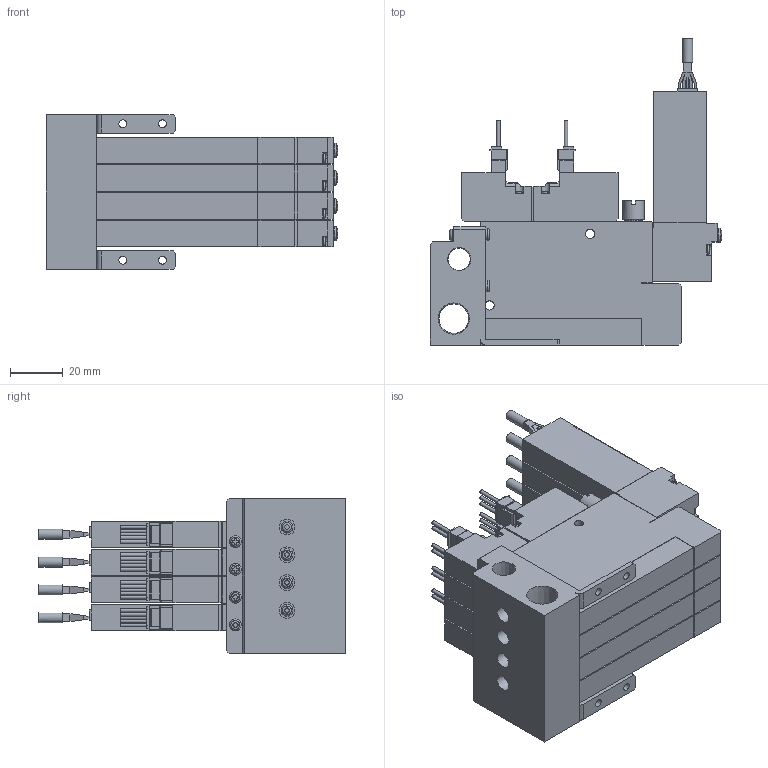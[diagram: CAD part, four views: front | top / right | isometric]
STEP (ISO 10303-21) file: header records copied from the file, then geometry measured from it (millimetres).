
FILE_DESCRIPTION(('STEP AP203'),'1');
FILE_NAME('V9C5WC404_3D.stp','2024-09-04T13:56:45',(' '),(' '),'Spatial InterOp 3D',' ',' ');
FILE_SCHEMA(('CONFIG_CONTROL_DESIGN'));
Length unit declared in the file: millimetre
Products named in the file (5): BSC1M※※V9C5WC404; Solenoid valve W; Pressure Sensor V9; Unit-C; BaseMC40R
Assembly tree (13 placements, depth 2):
  BSC1M※※V9C5WC404
    Solenoid valve W  x4
    Pressure Sensor V9  x4
    Unit-C  x4
    BaseMC40R
Bounding box: 110.35 x 115.8 x 58.5 mm (x, y, z)
Volume: 271629.4 mm3; surface area: 94288.6 mm2
Topology: 13 solids, 13 shells, 1763 faces, 4755 edges, 3134 vertices
Faces by surface type: plane 1355, cylinder 328, cone 32, sphere 24, torus 24
Full cylindrical faces by diameter (mm): 1.4 x20, 2.5 x8, 3 x20, 3.5 x32, 3.8 x4, 4 x4, 4.134 x8, 4.5 x12, 5.5 x8, 6 x4, 7 x8, 8 x4, 8.422 x1, 11.233 x1
Entity records: 19403 total; most frequent: CARTESIAN_POINT 4267, DIRECTION 3025, ORIENTED_EDGE 2950, EDGE_CURVE 1475, LINE 1037, VECTOR 1037, VERTEX_POINT 1032, AXIS2_PLACEMENT_3D 994
